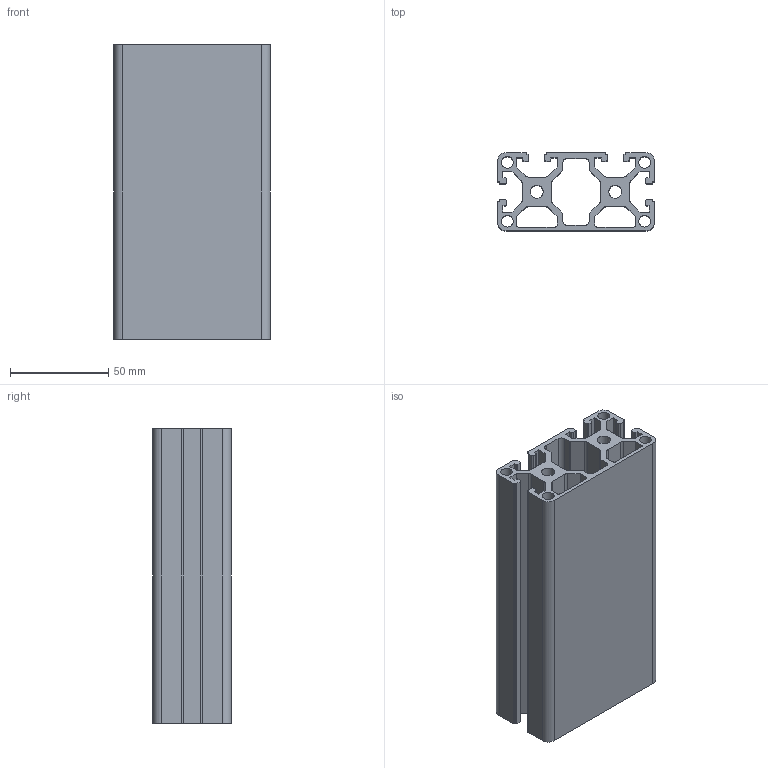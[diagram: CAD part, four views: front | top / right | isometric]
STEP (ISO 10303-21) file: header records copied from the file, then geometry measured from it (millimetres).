
FILE_DESCRIPTION((''),'2;1');
FILE_NAME('E:\catalogue and flyer\Profile catalogue 2015\profile-step file,31MAr16\PS4080-8 2N.stp','2016-03-31T14:12:42',('h029'),(''),'Autodesk Inventor 11','Autodesk Inventor 11','');
FILE_SCHEMA(('AUTOMOTIVE_DESIGN { 1 0 10303 214 1 1 1 1 }'));
Length unit declared in the file: millimetre
Products named in the file (1): ps4080-8 2N
Bounding box: 80 x 40 x 150 mm (x, y, z)
Volume: 181328 mm3; surface area: 116518.9 mm2
Topology: 1 solids, 1 shells, 172 faces, 510 edges, 340 vertices
Faces by surface type: plane 102, cylinder 70
Full cylindrical faces by diameter (mm): 6 x4, 6.7 x2
Entity records: 5803 total; most frequent: CARTESIAN_POINT 1017, ORIENTED_EDGE 1008, DIRECTION 990, EDGE_CURVE 504, VECTOR 364, LINE 364, VERTEX_POINT 340, AXIS2_PLACEMENT_3D 313
